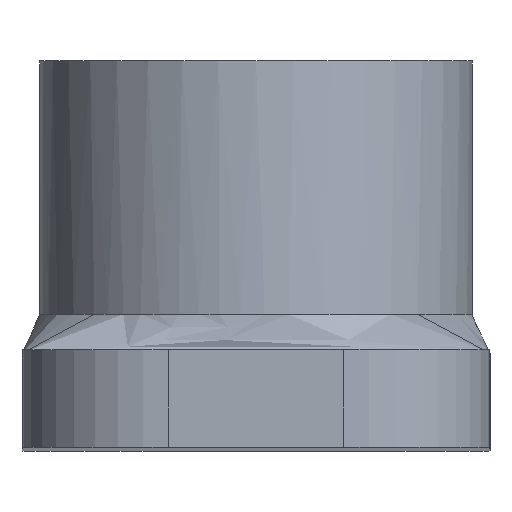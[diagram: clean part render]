
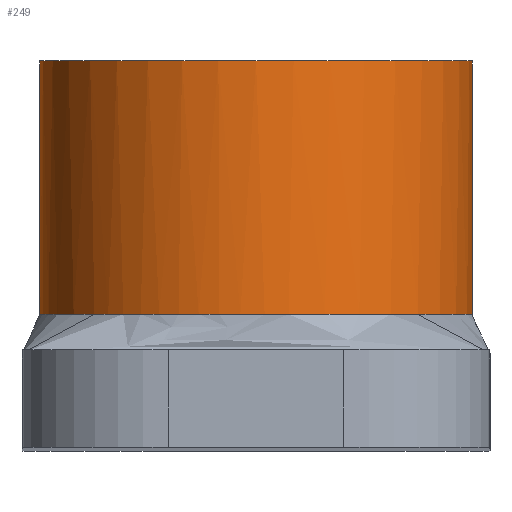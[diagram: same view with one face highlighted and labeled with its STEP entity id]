
A CAD part, top view. The second image highlights one B-rep face of the part: STEP entity #249.
In plain terms, the highlighted cylindrical face has radius 11.1 mm (diameter 22.2 mm), a full revolution.
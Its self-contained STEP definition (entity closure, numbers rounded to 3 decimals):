
#27=B_SPLINE_CURVE_WITH_KNOTS('',3,(#658,#659,#660,#661,#662,#663,#664,
#665,#666,#667,#668,#669),.UNSPECIFIED.,.F.,.F.,(4,2,2,2,2,4),(-0.809,
-0.404,-0.303,-0.152,-0.076,
0.),.UNSPECIFIED.);
#28=B_SPLINE_CURVE_WITH_KNOTS('',3,(#702,#703,#704,#705,#706,#707,#708,
#709,#710,#711,#712,#713,#714,#715),.UNSPECIFIED.,.F.,.F.,(4,2,2,2,2,2,
4),(-1.884,-1.601,-1.319,-0.942,
-0.762,-0.383,0.),.UNSPECIFIED.);
#49=FACE_OUTER_BOUND('',#66,.T.);
#66=EDGE_LOOP('',(#223,#224,#225,#226,#227,#228));
#86=LINE('',#719,#104);
#104=VECTOR('',#352,11.1);
#113=CIRCLE('',#284,11.1);
#114=CIRCLE('',#286,11.1);
#131=VERTEX_POINT('',#656);
#132=VERTEX_POINT('',#657);
#133=VERTEX_POINT('',#670);
#134=VERTEX_POINT('',#717);
#160=EDGE_CURVE('',#131,#132,#27,.T.);
#161=EDGE_CURVE('',#132,#133,#113,.T.);
#164=EDGE_CURVE('',#133,#131,#28,.T.);
#165=EDGE_CURVE('',#134,#134,#114,.T.);
#166=EDGE_CURVE('',#134,#132,#86,.T.);
#223=ORIENTED_EDGE('',*,*,#165,.F.);
#224=ORIENTED_EDGE('',*,*,#166,.T.);
#225=ORIENTED_EDGE('',*,*,#160,.F.);
#226=ORIENTED_EDGE('',*,*,#164,.F.);
#227=ORIENTED_EDGE('',*,*,#161,.F.);
#228=ORIENTED_EDGE('',*,*,#166,.F.);
#235=CYLINDRICAL_SURFACE('',#285,11.1);
#249=ADVANCED_FACE('',(#49),#235,.T.);
#284=AXIS2_PLACEMENT_3D('',#671,#344,#345);
#285=AXIS2_PLACEMENT_3D('',#716,#348,#349);
#286=AXIS2_PLACEMENT_3D('',#718,#350,#351);
#344=DIRECTION('center_axis',(0.,1.,0.));
#345=DIRECTION('ref_axis',(-1.,0.,0.));
#348=DIRECTION('center_axis',(0.,-1.,0.));
#349=DIRECTION('ref_axis',(-1.,0.,0.));
#350=DIRECTION('center_axis',(0.,-1.,0.));
#351=DIRECTION('ref_axis',(-1.,0.,0.));
#352=DIRECTION('',(0.,1.,0.));
#656=CARTESIAN_POINT('',(8.289,16.6,136.982));
#657=CARTESIAN_POINT('',(11.1,16.6,129.6));
#658=CARTESIAN_POINT('Ctrl Pts',(8.289,16.6,136.982));
#659=CARTESIAN_POINT('Ctrl Pts',(9.186,16.6,135.975));
#660=CARTESIAN_POINT('Ctrl Pts',(9.892,16.603,134.813));
#661=CARTESIAN_POINT('Ctrl Pts',(10.492,16.604,133.238));
#662=CARTESIAN_POINT('Ctrl Pts',(10.598,16.604,132.918));
#663=CARTESIAN_POINT('Ctrl Pts',(10.825,16.603,132.106));
#664=CARTESIAN_POINT('Ctrl Pts',(10.928,16.602,131.61));
#665=CARTESIAN_POINT('Ctrl Pts',(11.031,16.601,130.858));
#666=CARTESIAN_POINT('Ctrl Pts',(11.057,16.602,130.607));
#667=CARTESIAN_POINT('Ctrl Pts',(11.091,16.603,130.103));
#668=CARTESIAN_POINT('Ctrl Pts',(11.1,16.604,129.852));
#669=CARTESIAN_POINT('Ctrl Pts',(11.1,16.604,129.6));
#670=CARTESIAN_POINT('',(-8.292,16.6,136.979));
#671=CARTESIAN_POINT('Origin',(0.,16.6,129.6));
#702=CARTESIAN_POINT('Ctrl Pts',(-8.292,16.6,136.979));
#703=CARTESIAN_POINT('Ctrl Pts',(-7.669,16.6,137.679));
#704=CARTESIAN_POINT('Ctrl Pts',(-6.96,16.601,138.297));
#705=CARTESIAN_POINT('Ctrl Pts',(-5.405,16.601,139.34));
#706=CARTESIAN_POINT('Ctrl Pts',(-4.566,16.6,139.76));
#707=CARTESIAN_POINT('Ctrl Pts',(-2.51,16.602,140.484));
#708=CARTESIAN_POINT('Ctrl Pts',(-1.276,16.623,140.696));
#709=CARTESIAN_POINT('Ctrl Pts',(0.565,16.611,140.702));
#710=CARTESIAN_POINT('Ctrl Pts',(1.16,16.604,140.655));
#711=CARTESIAN_POINT('Ctrl Pts',(2.999,16.6,140.361));
#712=CARTESIAN_POINT('Ctrl Pts',(4.203,16.603,139.951));
#713=CARTESIAN_POINT('Ctrl Pts',(6.433,16.602,138.735));
#714=CARTESIAN_POINT('Ctrl Pts',(7.44,16.6,137.935));
#715=CARTESIAN_POINT('Ctrl Pts',(8.289,16.6,136.982));
#716=CARTESIAN_POINT('Origin',(0.,14.6,129.6));
#717=CARTESIAN_POINT('',(11.1,3.6,129.6));
#718=CARTESIAN_POINT('Origin',(0.,3.6,129.6));
#719=CARTESIAN_POINT('',(11.1,14.6,129.6));
